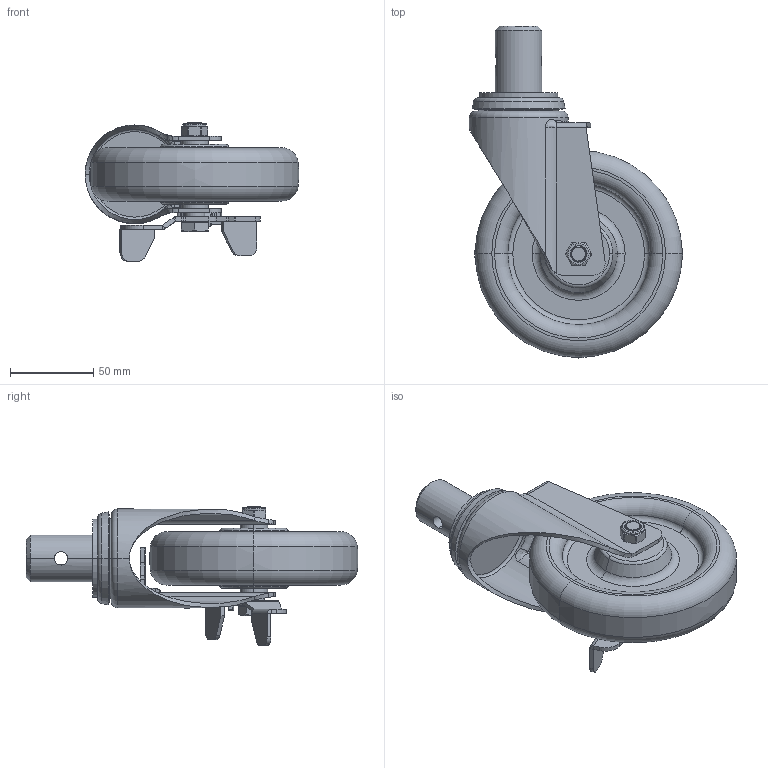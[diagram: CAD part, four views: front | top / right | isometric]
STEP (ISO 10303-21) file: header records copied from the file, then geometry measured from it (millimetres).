
FILE_DESCRIPTION((''),'2;1');
FILE_NAME('50165C-505-86_ASM','2020-01-07T',('L'),(''),'PRO/ENGINEER BY PARAMETRIC TECHNOLOGY CORPORATION, 2010280','PRO/ENGINEER BY PARAMETRIC TECHNOLOGY CORPORATION, 2010280','');
FILE_SCHEMA(('CONFIG_CONTROL_DESIGN'));
Length unit declared in the file: millimetre
Products named in the file (7): 50165C; 505-986; 502-33; 570-34; 503-15; 500-14; 50165C-505-86_ASM
Assembly tree (6 placements, depth 2):
  50165C-505-86_ASM
    50165C
    505-986
    502-33
    570-34
    503-15
    500-14
Bounding box: 128.1 x 199.15 x 83.14 mm (x, y, z)
Volume: 387004.2 mm3; surface area: 86126.9 mm2
Topology: 6 solids, 6 shells, 401 faces, 962 edges, 586 vertices
Faces by surface type: cylinder 148, plane 138, bspline 50, cone 33, torus 32
Entity records: 20197 total; most frequent: CARTESIAN_POINT 11115, ORIENTED_EDGE 1924, DIRECTION 1753, EDGE_CURVE 962, AXIS2_PLACEMENT_3D 658, VERTEX_POINT 586, VECTOR 437, LINE 437
